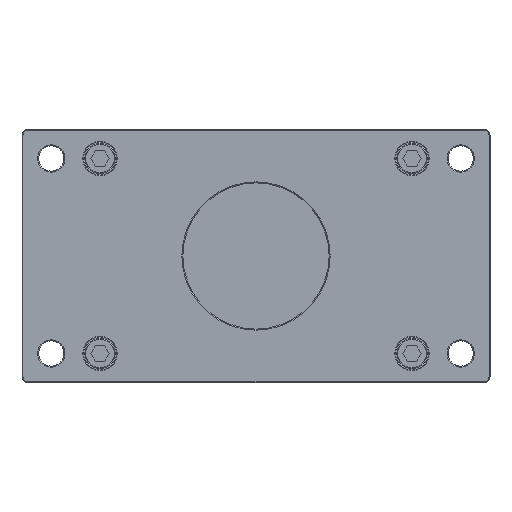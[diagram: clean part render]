
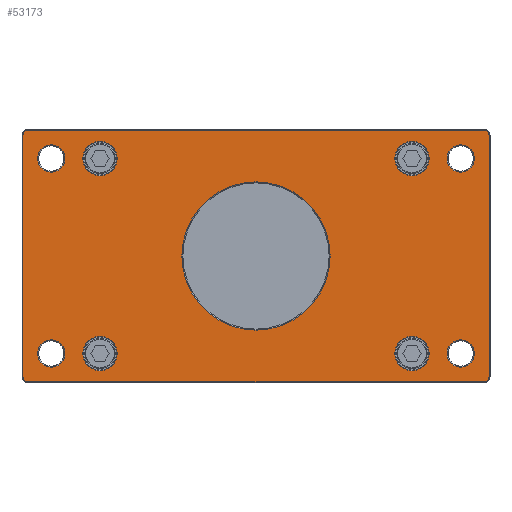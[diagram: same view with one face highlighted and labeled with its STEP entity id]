
A CAD part, front view. The second image highlights one B-rep face of the part: STEP entity #53173.
In plain terms, the highlighted planar face has unit normal (0, -1, 0) as drawn and (0, 1, 0) by its records, which use the part's own axes.
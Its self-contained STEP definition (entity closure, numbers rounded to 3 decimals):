
#51625=CARTESIAN_POINT('',(0.,9.,0.));
#51626=DIRECTION('',(0.,-1.,0.));
#51627=DIRECTION('',(1.,0.,0.));
#51628=AXIS2_PLACEMENT_3D('',#51625,#51626,#51627);
#51630=CARTESIAN_POINT('',(0.,9.,0.));
#51631=DIRECTION('',(0.,-1.,0.));
#51632=DIRECTION('',(-1.,0.,0.));
#51633=AXIS2_PLACEMENT_3D('',#51630,#51631,#51632);
#51635=CARTESIAN_POINT('',(-105.,9.,-50.));
#51636=DIRECTION('',(0.,-1.,0.));
#51637=DIRECTION('',(-1.,0.,0.));
#51638=AXIS2_PLACEMENT_3D('',#51635,#51636,#51637);
#51640=CARTESIAN_POINT('',(-105.,9.,-50.));
#51641=DIRECTION('',(0.,-1.,0.));
#51642=DIRECTION('',(1.,0.,0.));
#51643=AXIS2_PLACEMENT_3D('',#51640,#51641,#51642);
#51645=CARTESIAN_POINT('',(105.,9.,-50.));
#51646=DIRECTION('',(0.,-1.,0.));
#51647=DIRECTION('',(-1.,0.,0.));
#51648=AXIS2_PLACEMENT_3D('',#51645,#51646,#51647);
#51650=CARTESIAN_POINT('',(105.,9.,-50.));
#51651=DIRECTION('',(0.,-1.,0.));
#51652=DIRECTION('',(1.,0.,0.));
#51653=AXIS2_PLACEMENT_3D('',#51650,#51651,#51652);
#51655=CARTESIAN_POINT('',(105.,9.,50.));
#51656=DIRECTION('',(0.,-1.,0.));
#51657=DIRECTION('',(1.,0.,0.));
#51658=AXIS2_PLACEMENT_3D('',#51655,#51656,#51657);
#51660=CARTESIAN_POINT('',(105.,9.,50.));
#51661=DIRECTION('',(0.,-1.,0.));
#51662=DIRECTION('',(-1.,0.,0.));
#51663=AXIS2_PLACEMENT_3D('',#51660,#51661,#51662);
#51665=CARTESIAN_POINT('',(-105.,9.,50.));
#51666=DIRECTION('',(0.,-1.,0.));
#51667=DIRECTION('',(-1.,0.,0.));
#51668=AXIS2_PLACEMENT_3D('',#51665,#51666,#51667);
#51670=CARTESIAN_POINT('',(-105.,9.,50.));
#51671=DIRECTION('',(0.,-1.,0.));
#51672=DIRECTION('',(1.,0.,0.));
#51673=AXIS2_PLACEMENT_3D('',#51670,#51671,#51672);
#51675=CARTESIAN_POINT('',(-117.,9.,-62.));
#51676=DIRECTION('',(0.,1.,0.));
#51677=DIRECTION('',(0.,0.,-1.));
#51678=AXIS2_PLACEMENT_3D('',#51675,#51676,#51677);
#51680=DIRECTION('',(-1.,0.,0.));
#51681=VECTOR('',#51680,234.);
#51682=CARTESIAN_POINT('',(117.,9.,
-64.5));
#51683=LINE('',#51682,#51681);
#51684=CARTESIAN_POINT('',(117.,9.,-62.));
#51685=DIRECTION('',(0.,1.,0.));
#51686=DIRECTION('',(1.,0.,0.));
#51687=AXIS2_PLACEMENT_3D('',#51684,#51685,#51686);
#51689=DIRECTION('',(0.,0.,-1.));
#51690=VECTOR('',#51689,124.);
#51691=CARTESIAN_POINT('',(119.5,9.,62.));
#51692=LINE('',#51691,#51690);
#51693=CARTESIAN_POINT('',(117.,9.,62.));
#51694=DIRECTION('',(0.,1.,0.));
#51695=DIRECTION('',(0.,0.,1.));
#51696=AXIS2_PLACEMENT_3D('',#51693,#51694,#51695);
#51698=DIRECTION('',(1.,0.,0.));
#51699=VECTOR('',#51698,234.);
#51700=CARTESIAN_POINT('',(-117.,9.,
64.5));
#51701=LINE('',#51700,#51699);
#51702=CARTESIAN_POINT('',(-117.,9.,62.));
#51703=DIRECTION('',(0.,1.,0.));
#51704=DIRECTION('',(-1.,0.,0.));
#51705=AXIS2_PLACEMENT_3D('',#51702,#51703,#51704);
#51707=DIRECTION('',(0.,0.,1.));
#51708=VECTOR('',#51707,124.);
#51709=CARTESIAN_POINT('',(-119.5,9.,
-62.));
#51710=LINE('',#51709,#51708);
#51711=CARTESIAN_POINT('',(80.,9.,50.));
#51712=DIRECTION('',(0.,-1.,0.));
#51713=DIRECTION('',(1.,0.,0.));
#51714=AXIS2_PLACEMENT_3D('',#51711,#51712,#51713);
#51716=CARTESIAN_POINT('',(80.,9.,50.));
#51717=DIRECTION('',(0.,-1.,0.));
#51718=DIRECTION('',(-1.,0.,0.));
#51719=AXIS2_PLACEMENT_3D('',#51716,#51717,#51718);
#51721=CARTESIAN_POINT('',(-80.,9.,50.));
#51722=DIRECTION('',(0.,-1.,0.));
#51723=DIRECTION('',(1.,0.,0.));
#51724=AXIS2_PLACEMENT_3D('',#51721,#51722,#51723);
#51726=CARTESIAN_POINT('',(-80.,9.,50.));
#51727=DIRECTION('',(0.,-1.,0.));
#51728=DIRECTION('',(-1.,0.,0.));
#51729=AXIS2_PLACEMENT_3D('',#51726,#51727,#51728);
#51731=CARTESIAN_POINT('',(80.,9.,-50.));
#51732=DIRECTION('',(0.,-1.,0.));
#51733=DIRECTION('',(1.,0.,0.));
#51734=AXIS2_PLACEMENT_3D('',#51731,#51732,#51733);
#51736=CARTESIAN_POINT('',(80.,9.,-50.));
#51737=DIRECTION('',(0.,-1.,0.));
#51738=DIRECTION('',(-1.,0.,0.));
#51739=AXIS2_PLACEMENT_3D('',#51736,#51737,#51738);
#51741=CARTESIAN_POINT('',(-80.,9.,-50.));
#51742=DIRECTION('',(0.,-1.,0.));
#51743=DIRECTION('',(1.,0.,0.));
#51744=AXIS2_PLACEMENT_3D('',#51741,#51742,#51743);
#51746=CARTESIAN_POINT('',(-80.,9.,-50.));
#51747=DIRECTION('',(0.,-1.,0.));
#51748=DIRECTION('',(-1.,0.,0.));
#51749=AXIS2_PLACEMENT_3D('',#51746,#51747,#51748);
#52657=CARTESIAN_POINT('',(38.,9.,0.));
#52658=CARTESIAN_POINT('',(-38.,9.,0.));
#52659=VERTEX_POINT('',#52657);
#52660=VERTEX_POINT('',#52658);
#52673=CARTESIAN_POINT('',(-112.,9.,-50.));
#52674=CARTESIAN_POINT('',(-98.,9.,-50.));
#52675=VERTEX_POINT('',#52673);
#52676=VERTEX_POINT('',#52674);
#52681=CARTESIAN_POINT('',(98.,9.,-50.));
#52682=CARTESIAN_POINT('',(112.,9.,-50.));
#52683=VERTEX_POINT('',#52681);
#52684=VERTEX_POINT('',#52682);
#52689=CARTESIAN_POINT('',(112.,9.,50.));
#52690=CARTESIAN_POINT('',(98.,9.,50.));
#52691=VERTEX_POINT('',#52689);
#52692=VERTEX_POINT('',#52690);
#52697=CARTESIAN_POINT('',(-112.,9.,50.));
#52698=CARTESIAN_POINT('',(-98.,9.,50.));
#52699=VERTEX_POINT('',#52697);
#52700=VERTEX_POINT('',#52698);
#52769=CARTESIAN_POINT('',(-117.,9.,-64.5));
#52770=CARTESIAN_POINT('',(-119.5,9.,-62.));
#52771=VERTEX_POINT('',#52769);
#52772=VERTEX_POINT('',#52770);
#52777=CARTESIAN_POINT('',(-119.5,9.,
62.));
#52778=VERTEX_POINT('',#52777);
#52781=CARTESIAN_POINT('',(-117.,9.,64.5));
#52782=VERTEX_POINT('',#52781);
#52785=CARTESIAN_POINT('',(117.,9.,64.5));
#52786=VERTEX_POINT('',#52785);
#52789=CARTESIAN_POINT('',(119.5,9.,62.));
#52790=VERTEX_POINT('',#52789);
#52793=CARTESIAN_POINT('',(119.5,9.,
-62.));
#52794=VERTEX_POINT('',#52793);
#52797=CARTESIAN_POINT('',(117.,9.,-64.5));
#52798=VERTEX_POINT('',#52797);
#52817=CARTESIAN_POINT('',(88.8,9.,50.));
#52818=CARTESIAN_POINT('',(71.2,9.,50.));
#52819=VERTEX_POINT('',#52817);
#52820=VERTEX_POINT('',#52818);
#52841=CARTESIAN_POINT('',(-71.2,9.,50.));
#52842=CARTESIAN_POINT('',(-88.8,9.,50.));
#52843=VERTEX_POINT('',#52841);
#52844=VERTEX_POINT('',#52842);
#52857=CARTESIAN_POINT('',(88.8,9.,-50.));
#52858=CARTESIAN_POINT('',(71.2,9.,-50.));
#52859=VERTEX_POINT('',#52857);
#52860=VERTEX_POINT('',#52858);
#52865=CARTESIAN_POINT('',(-71.2,9.,-50.));
#52866=CARTESIAN_POINT('',(-88.8,9.,-50.));
#52867=VERTEX_POINT('',#52865);
#52868=VERTEX_POINT('',#52866);
#53097=CARTESIAN_POINT('',(0.,9.,0.));
#53098=DIRECTION('',(0.,1.,0.));
#53099=DIRECTION('',(1.,0.,0.));
#53100=AXIS2_PLACEMENT_3D('',#53097,#53098,#53099);
#53101=PLANE('',#53100);
#53103=ORIENTED_EDGE('',*,*,#53102,.F.);
#53105=ORIENTED_EDGE('',*,*,#53104,.F.);
#53107=ORIENTED_EDGE('',*,*,#53106,.F.);
#53109=ORIENTED_EDGE('',*,*,#53108,.F.);
#53111=ORIENTED_EDGE('',*,*,#53110,.F.);
#53113=ORIENTED_EDGE('',*,*,#53112,.F.);
#53115=ORIENTED_EDGE('',*,*,#53114,.F.);
#53117=ORIENTED_EDGE('',*,*,#53116,.F.);
#53118=EDGE_LOOP('',(#53103,#53105,#53107,#53109,#53111,#53113,#53115,#53117));
#53119=FACE_OUTER_BOUND('',#53118,.F.);
#53121=ORIENTED_EDGE('',*,*,#53120,.F.);
#53123=ORIENTED_EDGE('',*,*,#53122,.F.);
#53124=EDGE_LOOP('',(#53121,#53123));
#53125=FACE_BOUND('',#53124,.F.);
#53127=ORIENTED_EDGE('',*,*,#53126,.F.);
#53129=ORIENTED_EDGE('',*,*,#53128,.F.);
#53130=EDGE_LOOP('',(#53127,#53129));
#53131=FACE_BOUND('',#53130,.F.);
#53133=ORIENTED_EDGE('',*,*,#53132,.F.);
#53135=ORIENTED_EDGE('',*,*,#53134,.F.);
#53136=EDGE_LOOP('',(#53133,#53135));
#53137=FACE_BOUND('',#53136,.F.);
#53139=ORIENTED_EDGE('',*,*,#53138,.F.);
#53141=ORIENTED_EDGE('',*,*,#53140,.F.);
#53142=EDGE_LOOP('',(#53139,#53141));
#53143=FACE_BOUND('',#53142,.F.);
#53145=ORIENTED_EDGE('',*,*,#53144,.F.);
#53146=ORIENTED_EDGE('',*,*,#53087,.F.);
#53147=EDGE_LOOP('',(#53145,#53146));
#53148=FACE_BOUND('',#53147,.F.);
#53150=ORIENTED_EDGE('',*,*,#53149,.F.);
#53152=ORIENTED_EDGE('',*,*,#53151,.F.);
#53153=EDGE_LOOP('',(#53150,#53152));
#53154=FACE_BOUND('',#53153,.F.);
#53156=ORIENTED_EDGE('',*,*,#53155,.F.);
#53158=ORIENTED_EDGE('',*,*,#53157,.F.);
#53159=EDGE_LOOP('',(#53156,#53158));
#53160=FACE_BOUND('',#53159,.F.);
#53162=ORIENTED_EDGE('',*,*,#53161,.F.);
#53164=ORIENTED_EDGE('',*,*,#53163,.F.);
#53165=EDGE_LOOP('',(#53162,#53164));
#53166=FACE_BOUND('',#53165,.F.);
#53168=ORIENTED_EDGE('',*,*,#53167,.F.);
#53170=ORIENTED_EDGE('',*,*,#53169,.F.);
#53171=EDGE_LOOP('',(#53168,#53170));
#53172=FACE_BOUND('',#53171,.F.);
#53173=ADVANCED_FACE('',(#53119,#53125,#53131,#53137,#53143,#53148,#53154,
#53160,#53166,#53172),#53101,.T.);
#51629=CIRCLE('',#51628,38.);
#51634=CIRCLE('',#51633,38.);
#51639=CIRCLE('',#51638,7.);
#51644=CIRCLE('',#51643,7.);
#51649=CIRCLE('',#51648,7.);
#51654=CIRCLE('',#51653,7.);
#51659=CIRCLE('',#51658,7.);
#51664=CIRCLE('',#51663,7.);
#51669=CIRCLE('',#51668,7.);
#51674=CIRCLE('',#51673,7.);
#51679=CIRCLE('',#51678,2.5);
#51688=CIRCLE('',#51687,2.5);
#51697=CIRCLE('',#51696,2.5);
#51706=CIRCLE('',#51705,2.5);
#51715=CIRCLE('',#51714,8.8);
#51720=CIRCLE('',#51719,8.8);
#51725=CIRCLE('',#51724,8.8);
#51730=CIRCLE('',#51729,8.8);
#51735=CIRCLE('',#51734,8.8);
#51740=CIRCLE('',#51739,8.8);
#51745=CIRCLE('',#51744,8.8);
#51750=CIRCLE('',#51749,8.8);
#53087=EDGE_CURVE('',#52660,#52659,#51634,.T.);
#53102=EDGE_CURVE('',#52771,#52772,#51679,.T.);
#53104=EDGE_CURVE('',#52798,#52771,#51683,.T.);
#53106=EDGE_CURVE('',#52794,#52798,#51688,.T.);
#53108=EDGE_CURVE('',#52790,#52794,#51692,.T.);
#53110=EDGE_CURVE('',#52786,#52790,#51697,.T.);
#53112=EDGE_CURVE('',#52782,#52786,#51701,.T.);
#53114=EDGE_CURVE('',#52778,#52782,#51706,.T.);
#53116=EDGE_CURVE('',#52772,#52778,#51710,.T.);
#53120=EDGE_CURVE('',#52675,#52676,#51639,.T.);
#53122=EDGE_CURVE('',#52676,#52675,#51644,.T.);
#53126=EDGE_CURVE('',#52683,#52684,#51649,.T.);
#53128=EDGE_CURVE('',#52684,#52683,#51654,.T.);
#53132=EDGE_CURVE('',#52691,#52692,#51659,.T.);
#53134=EDGE_CURVE('',#52692,#52691,#51664,.T.);
#53138=EDGE_CURVE('',#52699,#52700,#51669,.T.);
#53140=EDGE_CURVE('',#52700,#52699,#51674,.T.);
#53144=EDGE_CURVE('',#52659,#52660,#51629,.T.);
#53149=EDGE_CURVE('',#52819,#52820,#51715,.T.);
#53151=EDGE_CURVE('',#52820,#52819,#51720,.T.);
#53155=EDGE_CURVE('',#52843,#52844,#51725,.T.);
#53157=EDGE_CURVE('',#52844,#52843,#51730,.T.);
#53161=EDGE_CURVE('',#52859,#52860,#51735,.T.);
#53163=EDGE_CURVE('',#52860,#52859,#51740,.T.);
#53167=EDGE_CURVE('',#52867,#52868,#51745,.T.);
#53169=EDGE_CURVE('',#52868,#52867,#51750,.T.);
